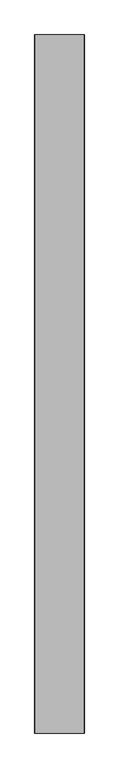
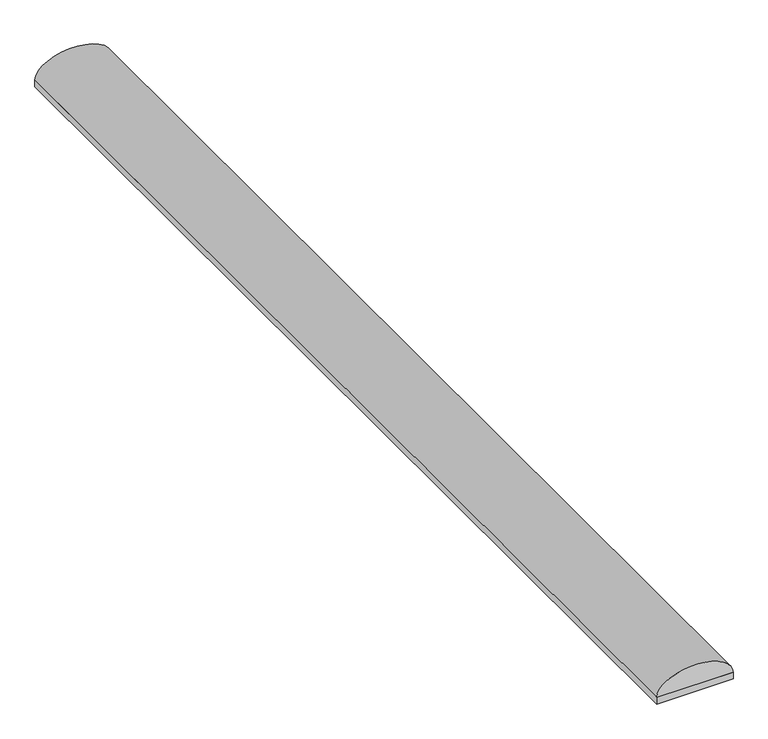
"""IFC4 building model written with IfcOpenShell, lengths in millimetres: proxy geometry, Spinneybeck_ARO Plank 1 : D - 8 1/4 in (21.0 cm)."""

import ifcopenshell
import ifcopenshell.guid

model = None  # the IFC model being written
_history = None  # IfcOwnerHistory: only IFC2X3 demands one
_inside = {}  # id of a spatial element -> (the spatial element, [elements in it])
_under = {}  # id of a project, library or spatial element -> (it, [spatial elements below it])
_declared = {}  # id of a project -> (the project, [libraries it declares])
_typed = {}  # id of a type object -> (the type object, [elements of that type])
_made_of = {}  # id of a material, layer set ... -> (it, [elements and type objects made of it])


def new_model(schema):
    """Start an empty IFC model of exactly this schema.

    Asked for "IFC4X3", IfcOpenShell would pick the latest addendum, in which some entities
    have other attributes; the version numbers below select the first issue.
    IFC2X3 requires an IfcOwnerHistory on every rooted entity: one is made here for all.
    """
    global model, _history
    if schema == "IFC4X3":
        model = ifcopenshell.file(schema_version=(4, 3, 0, 0))
    else:
        model = ifcopenshell.file(schema=schema)
    _inside.clear()
    _under.clear()
    _declared.clear()
    _typed.clear()
    _made_of.clear()
    _history = None
    if model.schema == "IFC2X3":
        org = make("IfcOrganization", Name="unknown")
        user = make(
            "IfcPersonAndOrganization",
            ThePerson=make("IfcPerson", FamilyName="unknown"),
            TheOrganization=org,
        )
        app = make(
            "IfcApplication",
            ApplicationDeveloper=org,
            Version="unknown",
            ApplicationFullName="unknown",
            ApplicationIdentifier="unknown",
        )
        _history = make(
            "IfcOwnerHistory",
            OwningUser=user,
            OwningApplication=app,
            ChangeAction="ADDED",
            CreationDate=0,
        )
    return model


def make(cls, **values):
    """One entity of the class cls with the attributes given. An attribute that is None is left unset."""
    return model.create_entity(
        cls, **{name: value for name, value in values.items() if value is not None}
    )


def rooted(cls, **values):
    """An entity with a GlobalId (a new one), such as an element, a storey or a relation."""
    return make(cls, GlobalId=ifcopenshell.guid.new(), OwnerHistory=_history, **values)


def si_unit(unit_type, name, prefix=None):
    """IfcSIUnit, for example si_unit("LENGTHUNIT", "METRE", prefix="MILLI")."""
    return make("IfcSIUnit", UnitType=unit_type, Prefix=prefix, Name=name)


def assignment(units):
    """IfcUnitAssignment: the units of a project."""
    return None if units is None else make("IfcUnitAssignment", Units=units)


def point(xyz):
    """IfcCartesianPoint."""
    return None if xyz is None else make("IfcCartesianPoint", Coordinates=xyz)


def direction(xyz):
    """IfcDirection."""
    return None if xyz is None else make("IfcDirection", DirectionRatios=xyz)


def frame(location, z_axis=None, x_axis=None):
    """IfcAxis2Placement3D, a coordinate frame: its origin and axes. An axis left out is left unset."""
    return make(
        "IfcAxis2Placement3D",
        Location=point(location),
        Axis=direction(z_axis),
        RefDirection=direction(x_axis),
    )


def origin():
    """The frame at (0, 0, 0) with its axes left unset."""
    return frame((0.0, 0.0, 0.0))


def origin_with_axes():
    """The frame at (0, 0, 0) with the z axis (0, 0, 1) and the x axis (1, 0, 0) written out."""
    return frame((0.0, 0.0, 0.0), z_axis=(0.0, 0.0, 1.0), x_axis=(1.0, 0.0, 0.0))


def place(relative_to, where):
    """IfcLocalPlacement: puts the frame where relative to a parent placement (None: the world)."""
    return make(
        "IfcLocalPlacement", PlacementRelTo=relative_to, RelativePlacement=where
    )


def context(
    kind, dimensions, precision=None, world=None, true_north=None, identifier=None
):
    """IfcGeometricRepresentationContext, for example the 3D "Model" context."""
    return make(
        "IfcGeometricRepresentationContext",
        ContextIdentifier=identifier,
        ContextType=kind,
        CoordinateSpaceDimension=dimensions,
        Precision=precision,
        WorldCoordinateSystem=world,
        TrueNorth=true_north,
    )


def project(units=None, contexts=None):
    """IfcProject with its units and contexts."""
    return rooted(
        "IfcProject",
        Name="project",
        RepresentationContexts=contexts,
        UnitsInContext=assignment(units),
    )


def spatial(cls, under=None, at=None, **own):
    """A site, building, storey or space (cls), placed at a placement, below another one or the project."""
    s = rooted(cls, ObjectPlacement=at, **own)
    if under is not None:
        _under.setdefault(under.id(), (under, []))[1].append(s)
    return s


def polyline(points):
    """IfcPolyline through the points."""
    return make("IfcPolyline", Points=[point(p) for p in points])


def ellipse_curve(where, semi_axis1, semi_axis2):
    """IfcEllipse in the frame where."""
    return make(
        "IfcEllipse", Position=where, SemiAxis1=semi_axis1, SemiAxis2=semi_axis2
    )


def trimmed(basis, trim1, trim2, sense, master):
    """IfcTrimmedCurve: the piece of a basis curve between two trims."""
    return make(
        "IfcTrimmedCurve",
        BasisCurve=basis,
        Trim1=trim1,
        Trim2=trim2,
        SenseAgreement=sense,
        MasterRepresentation=master,
    )


def outline(outer, holes=None, kind="AREA"):
    """IfcArbitraryClosedProfileDef: a profile drawn as a closed curve; with holes, ...WithVoids."""
    if holes is None:
        return make("IfcArbitraryClosedProfileDef", ProfileType=kind, OuterCurve=outer)
    return make(
        "IfcArbitraryProfileDefWithVoids",
        ProfileType=kind,
        OuterCurve=outer,
        InnerCurves=holes,
    )


def extrude(swept, where, along, depth):
    """IfcExtrudedAreaSolid: the profile swept, set in the frame where, extruded along a direction by depth."""
    return make(
        "IfcExtrudedAreaSolid",
        SweptArea=swept,
        Position=where,
        ExtrudedDirection=direction(along),
        Depth=depth,
    )


def shape(context_of_items, identifier, shape_type, items):
    """IfcShapeRepresentation: the items that make up one representation, for example the "Body"."""
    return make(
        "IfcShapeRepresentation",
        ContextOfItems=context_of_items,
        RepresentationIdentifier=identifier,
        RepresentationType=shape_type,
        Items=items,
    )


def source(mapping_origin, context_of_items, identifier, shape_type, items):
    """IfcRepresentationMap: a shape defined once, which mapped items show again and again."""
    return make(
        "IfcRepresentationMap",
        MappingOrigin=mapping_origin,
        MappedRepresentation=shape(context_of_items, identifier, shape_type, items),
    )


def transform(
    local_origin,
    x_axis=None,
    y_axis=None,
    z_axis=None,
    scale=None,
    scale2=None,
    scale3=None,
    uniform=True,
):
    """IfcCartesianTransformationOperator3D, or its non-uniform kind. x_axis, y_axis, z_axis: its Axis1, 2, 3."""
    if uniform:
        return make(
            "IfcCartesianTransformationOperator3D",
            Axis1=direction(x_axis),
            Axis2=direction(y_axis),
            LocalOrigin=point(local_origin),
            Scale=scale,
            Axis3=direction(z_axis),
        )
    return make(
        "IfcCartesianTransformationOperator3DnonUniform",
        Axis1=direction(x_axis),
        Axis2=direction(y_axis),
        LocalOrigin=point(local_origin),
        Scale=scale,
        Axis3=direction(z_axis),
        Scale2=scale2,
        Scale3=scale3,
    )


def mapped(mapping_source, mapping_target):
    """IfcMappedItem: shows the shape of a source again, moved by a transform."""
    return make(
        "IfcMappedItem", MappingSource=mapping_source, MappingTarget=mapping_target
    )


def made_of(thing, what):
    """Note that an element or type object is made of a material, layer set ...; save() writes the relation."""
    if what is not None:
        _made_of.setdefault(what.id(), (what, []))[1].append(thing)
    return thing


def element(
    cls,
    number,
    at=None,
    inside=None,
    cuts=None,
    type_object=None,
    material=None,
    context=None,
    identifier="Body",
    shape_type=None,
    held_by="IfcProductDefinitionShape",
    body=None,
    shapes=None,
    **own,
):
    """One element of the class cls, such as IfcWall. Its Tag is "e" and its number.

    at: its placement. inside: the storey or other place that contains it. cuts: it is an
    opening in that element (IfcRelVoidsElement). A single representation is given by context,
    identifier, shape_type and body (its items); several are given by shapes. held_by: the class
    of the entity that holds the representations. save() writes the other relations.
    """
    e = rooted(cls, Tag="e%d" % number, ObjectPlacement=at, **own)
    if body is not None:
        shapes = [shape(context, identifier, shape_type, body)]
    if shapes is not None:
        e.Representation = make(held_by, Representations=shapes)
    if inside is not None:
        _inside.setdefault(inside.id(), (inside, []))[1].append(e)
    if cuts is not None:
        rooted(
            "IfcRelVoidsElement", RelatingBuildingElement=cuts, RelatedOpeningElement=e
        )
    if type_object is not None:
        _typed.setdefault(type_object.id(), (type_object, []))[1].append(e)
    return made_of(e, material)


def aggregate(whole, parts):
    """IfcRelAggregates: a whole, such as a stair, and the parts it consists of."""
    return rooted("IfcRelAggregates", RelatingObject=whole, RelatedObjects=parts)


def save(model, path):
    """Write the relations noted so far, then the file.

    IfcRelAggregates (storeys below a building ...), IfcRelContainedInSpatialStructure (elements
    in a storey), IfcRelDefinesByType, IfcRelAssociatesMaterial and IfcRelDeclares: one each for
    every whole, place, type object, material and project.
    """
    for whole, parts in _under.values():
        aggregate(whole, parts)
    for where, things in _inside.values():
        rooted(
            "IfcRelContainedInSpatialStructure",
            RelatedElements=things,
            RelatingStructure=where,
        )
    for kind, things in _typed.values():
        rooted("IfcRelDefinesByType", RelatedObjects=things, RelatingType=kind)
    for what, things in _made_of.values():
        rooted("IfcRelAssociatesMaterial", RelatedObjects=things, RelatingMaterial=what)
    for by, libraries in _declared.values():
        rooted("IfcRelDeclares", RelatingContext=by, RelatedDefinitions=libraries)
    model.write(path)


def plane_surface(at):
    """IfcPlane: the flat surface through the origin of the frame at, square to its z axis."""
    return make("IfcPlane", Position=at)


def extruded_surface(curve, direction_of_extrusion, depth):
    """IfcSurfaceOfLinearExtrusion: the curve pushed along a direction by depth."""
    return make(
        "IfcSurfaceOfLinearExtrusion",
        SweptCurve=make("IfcArbitraryOpenProfileDef", ProfileType="CURVE", Curve=curve),
        ExtrudedDirection=direction(direction_of_extrusion),
        Depth=depth,
    )


def advanced_brep(points, edges, surfaces, faces):
    """IfcAdvancedBrep: a solid bounded by faces that lie on surfaces and meet in shared edges.

    An edge is (start, end): straight between two places in points (the first is 0);
    or (start, end, curve); or (start, end, curve, False) where it runs against its curve.
    A face is (place in surfaces, loops), or (place, loops, False) where it looks against
    its surface's normal. A loop lists edges by number (the first is 1), with a minus sign
    where the edge is run from its end to its start. The first loop is the outer one.
    """
    corners = [point(p) for p in points]
    vertices = [make("IfcVertexPoint", VertexGeometry=c) for c in corners]
    made = []
    for start, end, *more in edges:
        made.append(
            make(
                "IfcEdgeCurve",
                EdgeStart=vertices[start],
                EdgeEnd=vertices[end],
                EdgeGeometry=more[0] if more else make("IfcPolyline", Points=[corners[start], corners[end]]),
                SameSense=more[1] if len(more) > 1 else True,
            )
        )
    hull = []
    for where, loops, *sense in faces:
        bounds = []
        for j, loop in enumerate(loops):
            ring = [make("IfcOrientedEdge", EdgeElement=made[abs(k) - 1], Orientation=k > 0) for k in loop]
            bounds.append(
                make(
                    "IfcFaceOuterBound" if j == 0 else "IfcFaceBound",
                    Bound=make("IfcEdgeLoop", EdgeList=ring),
                    Orientation=True,
                )
            )
        hull.append(make("IfcAdvancedFace", Bounds=bounds, FaceSurface=surfaces[where], SameSense=sense[0] if sense else True))
    return make("IfcAdvancedBrep", Outer=make("IfcClosedShell", CfsFaces=hull))


def specialty_equipment_104b1e71(model_context):
    return source(origin(), model_context, "Body", "SolidModel", [
        advanced_brep(
        [(104.775, 2946.4, 19.05), (-104.775, 2946.4, 19.05), (104.775, 0.0, 19.05), (-104.775, 0.0, 19.05)],
        [
            (0, 1),
            (1, 0, ellipse_curve(frame((0.0, 2946.4, 19.05), z_axis=(0.0, 1.0, 0.0), x_axis=(-1.0, 0.0, 0.0)), 104.775, 57.15)),
            (2, 3, ellipse_curve(frame((0.0, 0.0, 19.05), z_axis=(0.0, -1.0, 0.0), x_axis=(-1.0, 0.0, 0.0)), 104.775, 57.15)),
            (3, 2),
            (0, 2),
            (3, 1),
        ],
        [
            plane_surface(frame((0.0, 2946.4, 0.0), z_axis=(0.0, 1.0, 0.0), x_axis=(0.0, 0.0, 1.0))),
            plane_surface(frame((0.0, 0.0, 0.0), z_axis=(0.0, -1.0, 0.0), x_axis=(0.0, 0.0, 1.0))),
            plane_surface(frame((104.775, 2946.4, 19.05), z_axis=(0.0, 0.0, -1.0), x_axis=(0.0, -1.0, 0.0))),
            extruded_surface(trimmed(ellipse_curve(frame((0.0, 0.0, 19.05), z_axis=(0.0, 1.0, 0.0), x_axis=(-1.0, 0.0, 0.0)), 104.775, 57.15), [point((-104.775, 0.0, 19.05))], [point((104.775, 0.0, 19.05))], True, "CARTESIAN"), (0.0, 2946.4, 0.0), 2946.4),
        ],
        [
            (0, [[1, 2]]),
            (1, [[3, 4]]),
            (2, [[-1, 5, -4, 6]]),
            (3, [[-2, -6, -3, -5]]),
        ],
    ),
        extrude(outline(polyline([(-104.775, 2946.4), (104.775, 2946.4), (104.775, 0.0), (-104.775, 0.0), (-104.775, 2946.4)])), origin_with_axes(), (0.0, 0.0, 1.0), 19.05),
    ])


if __name__ == "__main__":
    model = new_model("IFC4")
    model_context = context("Model", 3, world=origin())
    ifc_project = project(units=[si_unit("LENGTHUNIT", "METRE", prefix="MILLI")], contexts=[model_context])
    site = spatial("IfcSite", under=ifc_project)
    building = spatial("IfcBuilding", under=site)
    placement = place(None, origin())
    specialty_equipment_shape = specialty_equipment_104b1e71(model_context)
    element("IfcBuildingElementProxy", 1, Name="Spinneybeck_ARO Plank 1 : D - 8 1/4 in (21.0 cm)", ObjectType="Spinneybeck_ARO Plank 1 : D - 8 1/4 in (21.0 cm)", at=placement, inside=building, context=model_context, shape_type="MappedRepresentation", body=[
        mapped(specialty_equipment_shape, transform((0.0, 0.0, 0.0), x_axis=(1.0, 0.0, 0.0), y_axis=(0.0, 1.0, 0.0), z_axis=(0.0, 0.0, 1.0))),
    ])
    save(model, "model.ifc")
